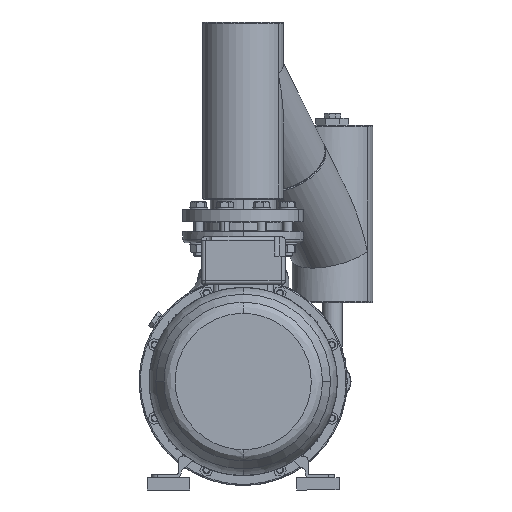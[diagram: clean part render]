
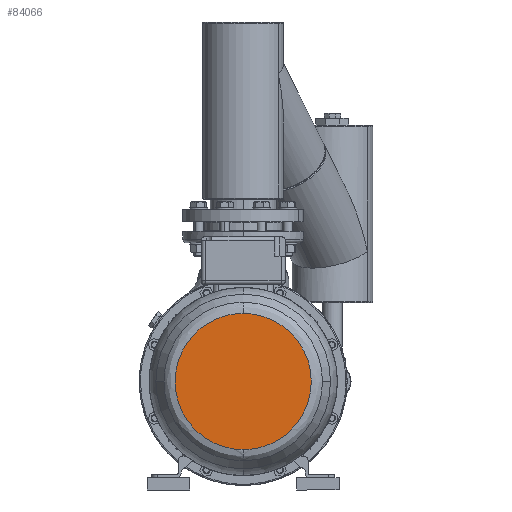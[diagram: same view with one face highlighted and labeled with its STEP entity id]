
A CAD part, front view. The second image highlights one B-rep face of the part: STEP entity #84066.
In plain terms, the highlighted planar face has unit normal (0, -1, 0).
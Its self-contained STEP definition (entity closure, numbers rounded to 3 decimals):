
#76681 = CARTESIAN_POINT ( 'NONE',  ( -155.205, -988.198, -87.932 ) ) ;
#76865 = CARTESIAN_POINT ( 'NONE',  ( -155.205, -988.198, 137.932 ) ) ;
#76897 = PLANE ( 'NONE',  #76995 ) ;
#76967 = CARTESIAN_POINT ( 'NONE',  ( -155.205, -988.198, -87.932 ) ) ;
#76969 = CARTESIAN_POINT ( 'NONE',  ( 70.66, -988.198, -87.932 ) ) ;
#76971 = CARTESIAN_POINT ( 'NONE',  ( 70.66, -988.198, 137.932 ) ) ;
#76973 = CARTESIAN_POINT ( 'NONE',  ( -155.205, -988.198, 137.932 ) ) ;
#76981 =( BOUNDED_CURVE ( )  B_SPLINE_CURVE ( 3, ( #76973, #76971, #76969, #76967 ),
 .UNSPECIFIED., .F., .T. ) 
 B_SPLINE_CURVE_WITH_KNOTS ( ( 4, 4 ),
 ( 0., 1. ),
 .UNSPECIFIED. ) 
 CURVE ( )  GEOMETRIC_REPRESENTATION_ITEM ( )  RATIONAL_B_SPLINE_CURVE ( ( 1., 0.333, 0.333, 1. ) ) 
 REPRESENTATION_ITEM ( '' )  );
#76990 = DIRECTION ( 'NONE',  ( 1., 0., 0. ) ) ;
#76992 = DIRECTION ( 'NONE',  ( 0., -1., 0. ) ) ;
#76994 = CARTESIAN_POINT ( 'NONE',  ( -155.205, -988.198, 25. ) ) ;
#76995 = AXIS2_PLACEMENT_3D ( 'NONE', #76994, #76992, #76990 ) ;
#77022 = FACE_OUTER_BOUND ( 'NONE', #84064, .T. ) ;
#78903 = CARTESIAN_POINT ( 'NONE',  ( -155.205, -988.198, 137.932 ) ) ;
#78905 = CARTESIAN_POINT ( 'NONE',  ( -381.07, -988.198, 137.932 ) ) ;
#78907 = CARTESIAN_POINT ( 'NONE',  ( -381.07, -988.198, -87.932 ) ) ;
#78909 = CARTESIAN_POINT ( 'NONE',  ( -155.205, -988.198, -87.932 ) ) ;
#78919 =( BOUNDED_CURVE ( )  B_SPLINE_CURVE ( 3, ( #78909, #78907, #78905, #78903 ),
 .UNSPECIFIED., .F., .T. ) 
 B_SPLINE_CURVE_WITH_KNOTS ( ( 4, 4 ),
 ( 0., 1. ),
 .UNSPECIFIED. ) 
 CURVE ( )  GEOMETRIC_REPRESENTATION_ITEM ( )  RATIONAL_B_SPLINE_CURVE ( ( 1., 0.333, 0.333, 1. ) ) 
 REPRESENTATION_ITEM ( '' )  );
#84001 = VERTEX_POINT ( 'NONE', #76865 ) ;
#84006 = VERTEX_POINT ( 'NONE', #76681 ) ;
#84055 = ORIENTED_EDGE ( 'NONE', *, *, #84421, .F. ) ;
#84057 = ORIENTED_EDGE ( 'NONE', *, *, #84068, .F. ) ;
#84064 = EDGE_LOOP ( 'NONE', ( #84055, #84057 ) ) ;
#84066 = ADVANCED_FACE ( 'NONE', ( #77022 ), #76897, .T. ) ;
#84068 = EDGE_CURVE ( 'NONE', #84001, #84006, #76981, .T. ) ;
#84421 = EDGE_CURVE ( 'NONE', #84006, #84001, #78919, .T. ) ;
